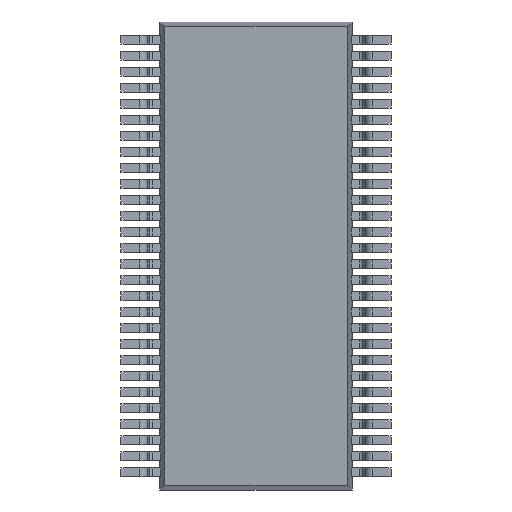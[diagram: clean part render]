
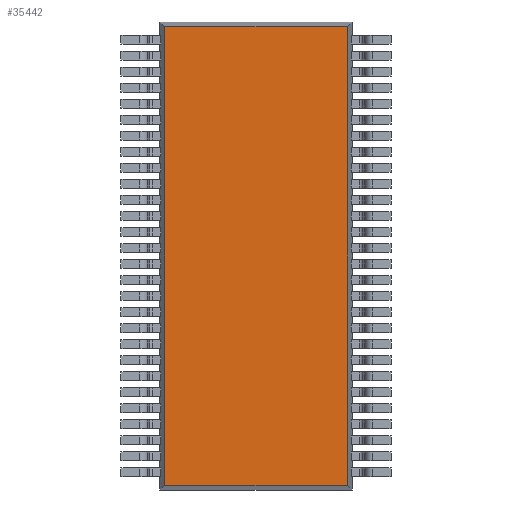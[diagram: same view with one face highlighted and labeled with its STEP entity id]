
A CAD part, front view. The second image highlights one B-rep face of the part: STEP entity #35442.
In plain terms, the highlighted planar face has unit normal (0, -1, 0).
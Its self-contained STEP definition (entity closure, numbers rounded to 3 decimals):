
#3411 = VERTEX_POINT ( 'NONE', #13850 ) ;
#3412 = VERTEX_POINT ( 'NONE', #13851 ) ;
#3416 = VERTEX_POINT ( 'NONE', #13855 ) ;
#3419 = VERTEX_POINT ( 'NONE', #13858 ) ;
#5272 = EDGE_LOOP ( 'NONE', ( #24524, #24525, #24526, #24674 ) ) ;
#12452 = LINE ( 'NONE', #14825, #12461 ) ;
#12461 = VECTOR ( 'NONE', #14835, 1000. ) ;
#12565 = LINE ( 'NONE', #14964, #12568 ) ;
#12567 = LINE ( 'NONE', #14966, #12570 ) ;
#12568 = VECTOR ( 'NONE', #14965, 1000. ) ;
#12570 = VECTOR ( 'NONE', #14967, 1000. ) ;
#12976 = LINE ( 'NONE', #15447, #12993 ) ;
#12993 = VECTOR ( 'NONE', #15468, 1000. ) ;
#13850 = CARTESIAN_POINT ( 'NONE',  ( 3.613, 0.2, -9.073 ) ) ;
#13851 = CARTESIAN_POINT ( 'NONE',  ( 3.613, 0.2, 9.073 ) ) ;
#13855 = CARTESIAN_POINT ( 'NONE',  ( -3.613, 0.2, -9.073 ) ) ;
#13858 = CARTESIAN_POINT ( 'NONE',  ( -3.613, 0.2, 9.073 ) ) ;
#14825 = CARTESIAN_POINT ( 'NONE',  ( -3.613, 0.2, 9.27 ) ) ;
#14835 = DIRECTION ( 'NONE',  ( 0., 0., -1. ) ) ;
#14964 = CARTESIAN_POINT ( 'NONE',  ( 3.81, 0.2, -9.073 ) ) ;
#14965 = DIRECTION ( 'NONE',  ( 1., 0., 0. ) ) ;
#14966 = CARTESIAN_POINT ( 'NONE',  ( 3.81, 0.2, 9.073 ) ) ;
#14967 = DIRECTION ( 'NONE',  ( -1., 0., 0. ) ) ;
#15447 = CARTESIAN_POINT ( 'NONE',  ( 3.613, 0.2, 9.27 ) ) ;
#15468 = DIRECTION ( 'NONE',  ( 0., 0., 1. ) ) ;
#20500 = AXIS2_PLACEMENT_3D ( 'NONE', #25550, #25555, #25556 ) ;
#24524 = ORIENTED_EDGE ( 'NONE', *, *, #34089, .T. ) ;
#24525 = ORIENTED_EDGE ( 'NONE', *, *, #34148, .T. ) ;
#24526 = ORIENTED_EDGE ( 'NONE', *, *, #34380, .T. ) ;
#24674 = ORIENTED_EDGE ( 'NONE', *, *, #34149, .T. ) ;
#25549 = PLANE ( 'NONE',  #20500 ) ;
#25550 = CARTESIAN_POINT ( 'NONE',  ( 0., 0.2, 0. ) ) ;
#25555 = DIRECTION ( 'NONE',  ( 0., 1., 0. ) ) ;
#25556 = DIRECTION ( 'NONE',  ( 0., 0., 1. ) ) ;
#26591 = FACE_OUTER_BOUND ( 'NONE', #5272, .T. ) ;
#34089 = EDGE_CURVE ( 'NONE', #3419, #3416, #12452, .T. ) ;
#34148 = EDGE_CURVE ( 'NONE', #3416, #3411, #12565, .T. ) ;
#34149 = EDGE_CURVE ( 'NONE', #3412, #3419, #12567, .T. ) ;
#34380 = EDGE_CURVE ( 'NONE', #3411, #3412, #12976, .T. ) ;
#35442 = ADVANCED_FACE ( 'NONE', ( #26591 ), #25549, .F. ) ;
